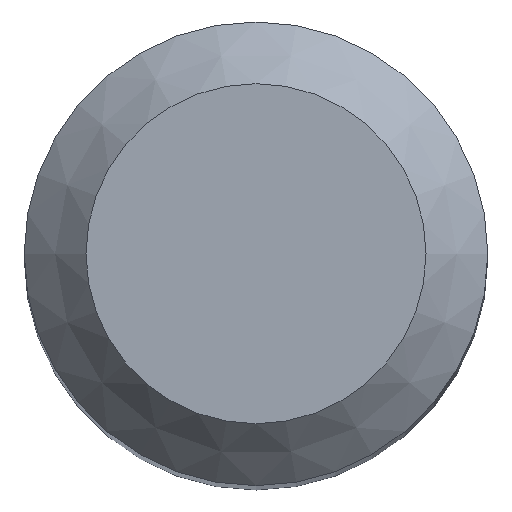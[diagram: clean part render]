
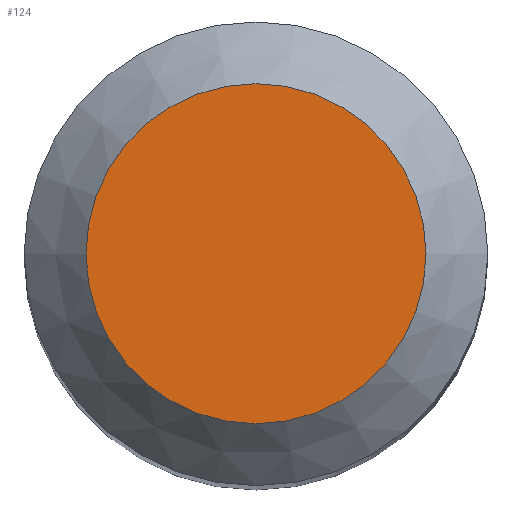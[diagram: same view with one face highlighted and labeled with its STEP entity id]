
A CAD part, top view. The second image highlights one B-rep face of the part: STEP entity #124.
In plain terms, the highlighted planar face has unit normal (0, 0, 1).
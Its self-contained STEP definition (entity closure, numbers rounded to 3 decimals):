
#108=CARTESIAN_POINT('',(2.2,0.0,45.0));
#109=DIRECTION('',(0.0,0.0,1.0));
#110=DIRECTION('',(1.0,0.0,0.0));
#111=AXIS2_PLACEMENT_3D('',#108,#109,#110);
#112=PLANE('',#111);
#113=CARTESIAN_POINT('',(-2.2,0.0,45.0));
#114=VERTEX_POINT('',#113);
#115=CARTESIAN_POINT('',(0.0,0.0,45.0));
#116=DIRECTION('',(0.0,0.0,-1.0));
#117=DIRECTION('',(-1.0,0.0,0.0));
#118=AXIS2_PLACEMENT_3D('',#115,#116,#117);
#119=CIRCLE('',#118,2.2);
#120=EDGE_CURVE('',#114,#114,#119,.T.);
#121=ORIENTED_EDGE('',*,*,#120,.F.);
#122=EDGE_LOOP('',(#121));
#123=FACE_OUTER_BOUND('',#122,.T.);
#124=ADVANCED_FACE('',(#123),#112,.T.);
